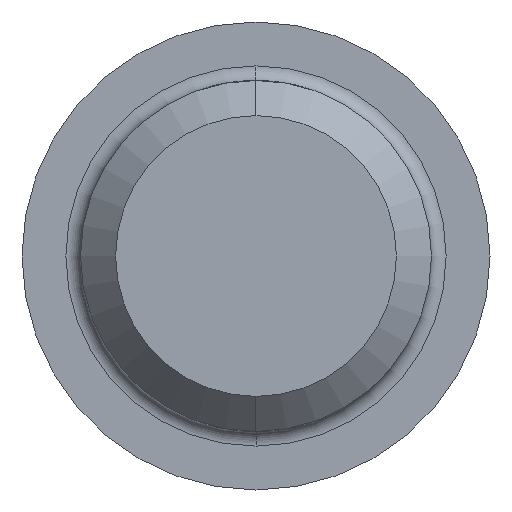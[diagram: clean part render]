
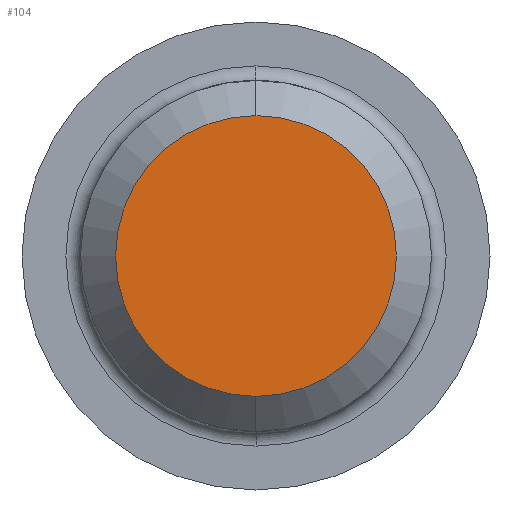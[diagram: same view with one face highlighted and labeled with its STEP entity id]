
A CAD part, left-side view. The second image highlights one B-rep face of the part: STEP entity #104.
In plain terms, the highlighted planar face has unit normal (-1, 0, 0).
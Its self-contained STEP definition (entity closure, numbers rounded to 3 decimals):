
#37 = EDGE_CURVE ( 'NONE', #65, #66, #285, .T. ) ;
#65 = VERTEX_POINT ( 'NONE', #211 ) ;
#66 = VERTEX_POINT ( 'NONE', #210 ) ;
#68 = EDGE_CURVE ( 'NONE', #66, #65, #206, .T. ) ;
#100 = ORIENTED_EDGE ( 'NONE', *, *, #68, .T. ) ;
#101 = EDGE_LOOP ( 'NONE', ( #107, #100 ) ) ;
#104 = ADVANCED_FACE ( 'NONE', ( #310 ), #311, .F. ) ;
#107 = ORIENTED_EDGE ( 'NONE', *, *, #37, .T. ) ;
#199 = DIRECTION ( 'NONE',  ( 0., 0., 1. ) ) ;
#200 = DIRECTION ( 'NONE',  ( -1., 0., 0. ) ) ;
#201 = CARTESIAN_POINT ( 'NONE',  ( -50., 0., 0. ) ) ;
#206 = CIRCLE ( 'NONE', #339, 4.8 ) ;
#210 = CARTESIAN_POINT ( 'NONE',  ( -50., 0., 4.8 ) ) ;
#211 = CARTESIAN_POINT ( 'NONE',  ( -50., 0., -4.8 ) ) ;
#232 = AXIS2_PLACEMENT_3D ( 'NONE', #236, #303, #302 ) ;
#236 = CARTESIAN_POINT ( 'NONE',  ( -50., 4.8, 0. ) ) ;
#284 = AXIS2_PLACEMENT_3D ( 'NONE', #358, #353, #352 ) ;
#285 = CIRCLE ( 'NONE', #284, 4.8 ) ;
#302 = DIRECTION ( 'NONE',  ( 0., 0., -1. ) ) ;
#303 = DIRECTION ( 'NONE',  ( 1., 0., 0. ) ) ;
#310 = FACE_OUTER_BOUND ( 'NONE', #101, .T. ) ;
#311 = PLANE ( 'NONE',  #232 ) ;
#339 = AXIS2_PLACEMENT_3D ( 'NONE', #201, #200, #199 ) ;
#352 = DIRECTION ( 'NONE',  ( 0., 0., 1. ) ) ;
#353 = DIRECTION ( 'NONE',  ( -1., 0., 0. ) ) ;
#358 = CARTESIAN_POINT ( 'NONE',  ( -50., 0., 0. ) ) ;
